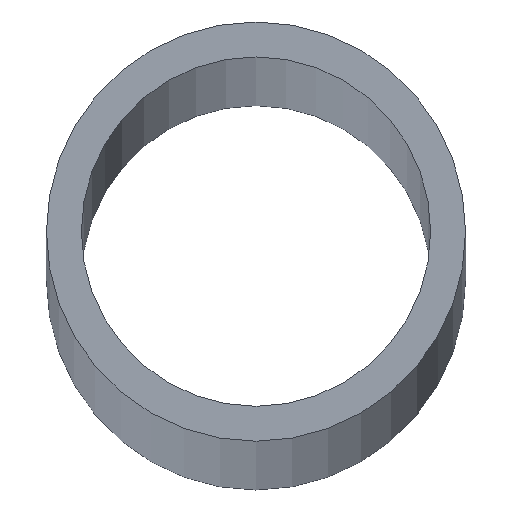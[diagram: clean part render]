
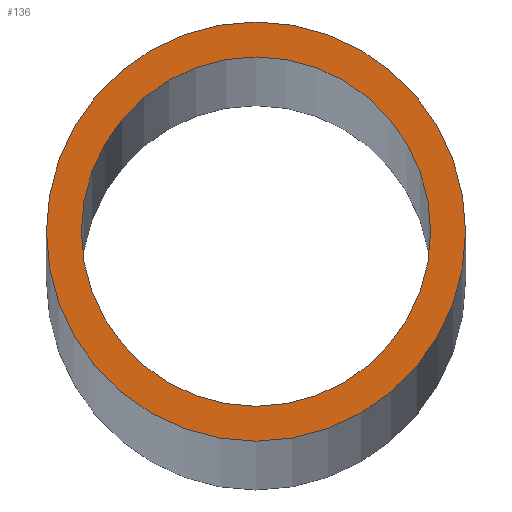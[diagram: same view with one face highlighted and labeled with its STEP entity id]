
A CAD part, top view. The second image highlights one B-rep face of the part: STEP entity #136.
In plain terms, the highlighted planar face has unit normal (0, 0, 1).
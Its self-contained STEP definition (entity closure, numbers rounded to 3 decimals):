
#8 = CIRCLE ( 'NONE', #197, 12.5 ) ;
#11 = DIRECTION ( 'NONE',  ( 1., 0., 0. ) ) ;
#12 = EDGE_CURVE ( 'NONE', #25, #85, #196, .T. ) ;
#19 = EDGE_CURVE ( 'NONE', #54, #81, #20, .T. ) ;
#20 = CIRCLE ( 'NONE', #45, 15. ) ;
#22 = CARTESIAN_POINT ( 'NONE',  ( 0., 0., 2000. ) ) ;
#24 = CARTESIAN_POINT ( 'NONE',  ( -12.5, 0., 2000. ) ) ;
#25 = VERTEX_POINT ( 'NONE', #204 ) ;
#35 = EDGE_CURVE ( 'NONE', #81, #54, #62, .T. ) ;
#45 = AXIS2_PLACEMENT_3D ( 'NONE', #22, #120, #57 ) ;
#48 = CARTESIAN_POINT ( 'NONE',  ( 0., 0., 2000. ) ) ;
#54 = VERTEX_POINT ( 'NONE', #91 ) ;
#57 = DIRECTION ( 'NONE',  ( 1., 0., 0. ) ) ;
#62 = CIRCLE ( 'NONE', #77, 15. ) ;
#64 = DIRECTION ( 'NONE',  ( 0., 0., 1. ) ) ;
#66 = EDGE_LOOP ( 'NONE', ( #175, #139 ) ) ;
#72 = AXIS2_PLACEMENT_3D ( 'NONE', #48, #78, #188 ) ;
#77 = AXIS2_PLACEMENT_3D ( 'NONE', #151, #117, #169 ) ;
#78 = DIRECTION ( 'NONE',  ( 0., 0., 1. ) ) ;
#81 = VERTEX_POINT ( 'NONE', #119 ) ;
#85 = VERTEX_POINT ( 'NONE', #24 ) ;
#89 = FACE_OUTER_BOUND ( 'NONE', #66, .T. ) ;
#91 = CARTESIAN_POINT ( 'NONE',  ( -15., 0., 2000. ) ) ;
#94 = EDGE_CURVE ( 'NONE', #85, #25, #8, .T. ) ;
#97 = PLANE ( 'NONE',  #72 ) ;
#106 = DIRECTION ( 'NONE',  ( 0., 0., 1. ) ) ;
#113 = ORIENTED_EDGE ( 'NONE', *, *, #94, .F. ) ;
#115 = FACE_BOUND ( 'NONE', #159, .T. ) ;
#117 = DIRECTION ( 'NONE',  ( 0., 0., 1. ) ) ;
#119 = CARTESIAN_POINT ( 'NONE',  ( 15., 0., 2000. ) ) ;
#120 = DIRECTION ( 'NONE',  ( 0., 0., 1. ) ) ;
#134 = DIRECTION ( 'NONE',  ( 1., 0., 0. ) ) ;
#136 = ADVANCED_FACE ( 'NONE', ( #89, #115 ), #97, .T. ) ;
#139 = ORIENTED_EDGE ( 'NONE', *, *, #35, .T. ) ;
#151 = CARTESIAN_POINT ( 'NONE',  ( 0., 0., 2000. ) ) ;
#159 = EDGE_LOOP ( 'NONE', ( #113, #195 ) ) ;
#162 = AXIS2_PLACEMENT_3D ( 'NONE', #200, #106, #134 ) ;
#169 = DIRECTION ( 'NONE',  ( 1., 0., 0. ) ) ;
#171 = CARTESIAN_POINT ( 'NONE',  ( 0., 0., 2000. ) ) ;
#175 = ORIENTED_EDGE ( 'NONE', *, *, #19, .T. ) ;
#188 = DIRECTION ( 'NONE',  ( 1., 0., 0. ) ) ;
#195 = ORIENTED_EDGE ( 'NONE', *, *, #12, .F. ) ;
#196 = CIRCLE ( 'NONE', #162, 12.5 ) ;
#197 = AXIS2_PLACEMENT_3D ( 'NONE', #171, #64, #11 ) ;
#200 = CARTESIAN_POINT ( 'NONE',  ( 0., 0., 2000. ) ) ;
#204 = CARTESIAN_POINT ( 'NONE',  ( 12.5, 0., 2000. ) ) ;
